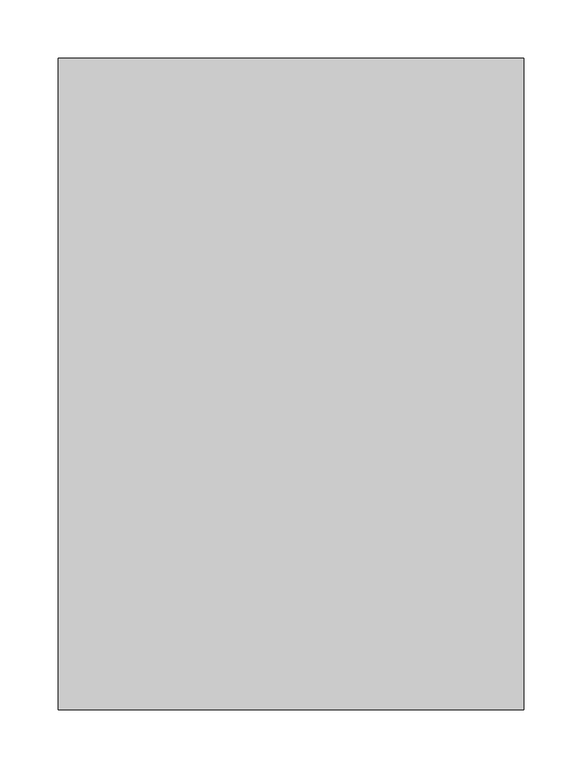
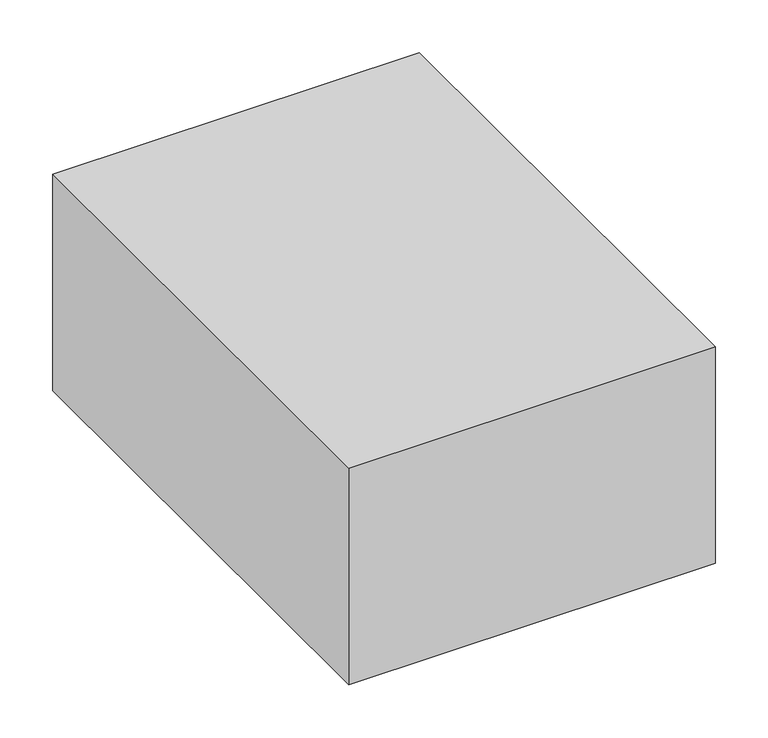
"""IFC4 building model written with IfcOpenShell, lengths in millimetres: beam geometry, Armazón estructural 4 : Armazón estructural 1."""

from ifc_helpers import new_model, si_unit, origin, origin_with_axes, place, context, project, spatial, polyline, outline, extrude, source, transform, mapped, element, save


def beam_11fd358c(model_context):
    return source(origin(), model_context, "Body", "SweptSolid", [
        extrude(outline(polyline([(12503.6924374, 17176.9755022), (12103.6924374, 17176.9755022), (12103.6924374, 17736.9755022), (12503.6924374, 17736.9755022), (12503.6924374, 17176.9755022)])), origin_with_axes(), (0.0, 0.0, 1.0), 250.0),
    ])


if __name__ == "__main__":
    model = new_model("IFC4")
    model_context = context("Model", 3, world=origin())
    ifc_project = project(units=[si_unit("LENGTHUNIT", "METRE", prefix="MILLI")], contexts=[model_context])
    site = spatial("IfcSite", under=ifc_project)
    building = spatial("IfcBuilding", under=site)
    placement = place(None, origin())
    beam_shape = beam_11fd358c(model_context)
    element("IfcBeam", 1, ObjectType="Armazón estructural 4 : Armazón estructural 1", at=placement, inside=building, context=model_context, shape_type="MappedRepresentation", body=[
        mapped(beam_shape, transform((0.0, 0.0, 0.0), x_axis=(1.0, 0.0, 0.0), y_axis=(0.0, 1.0, 0.0), z_axis=(0.0, 0.0, 1.0))),
    ])
    save(model, "model.ifc")
